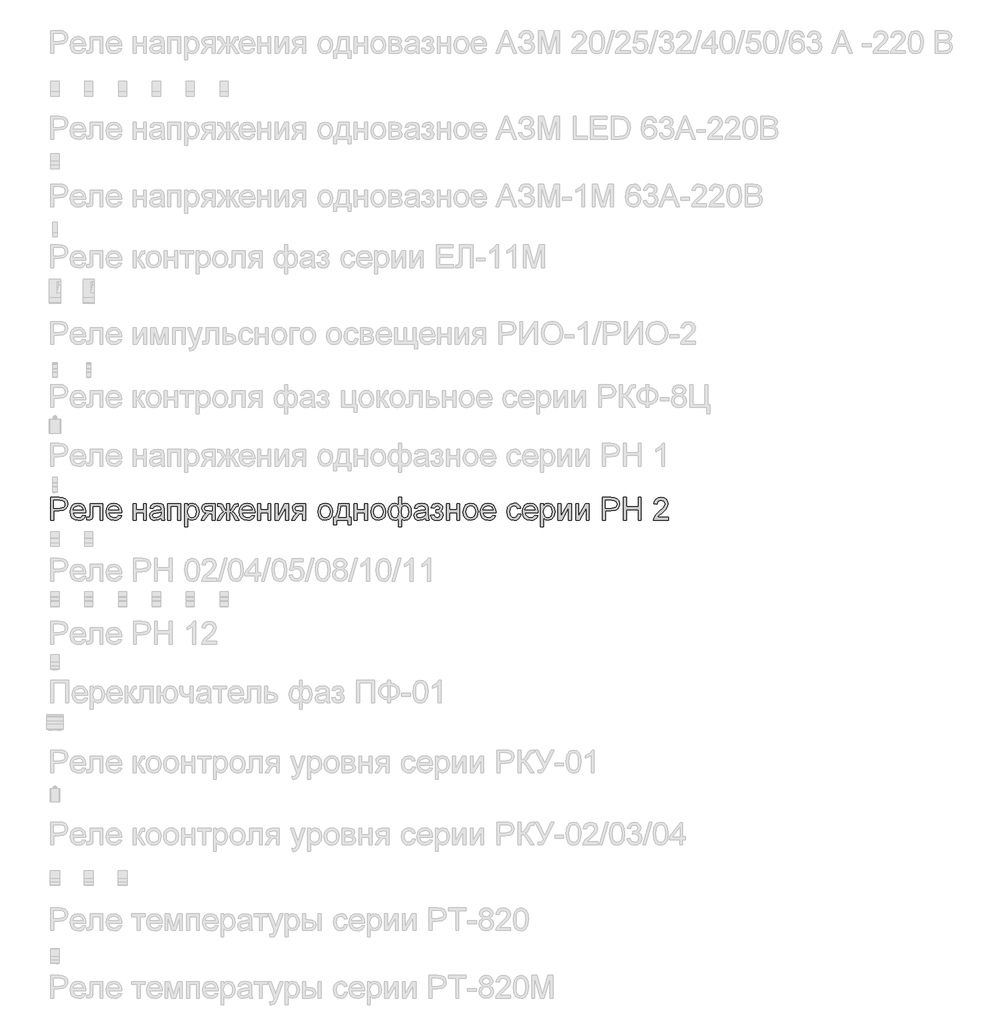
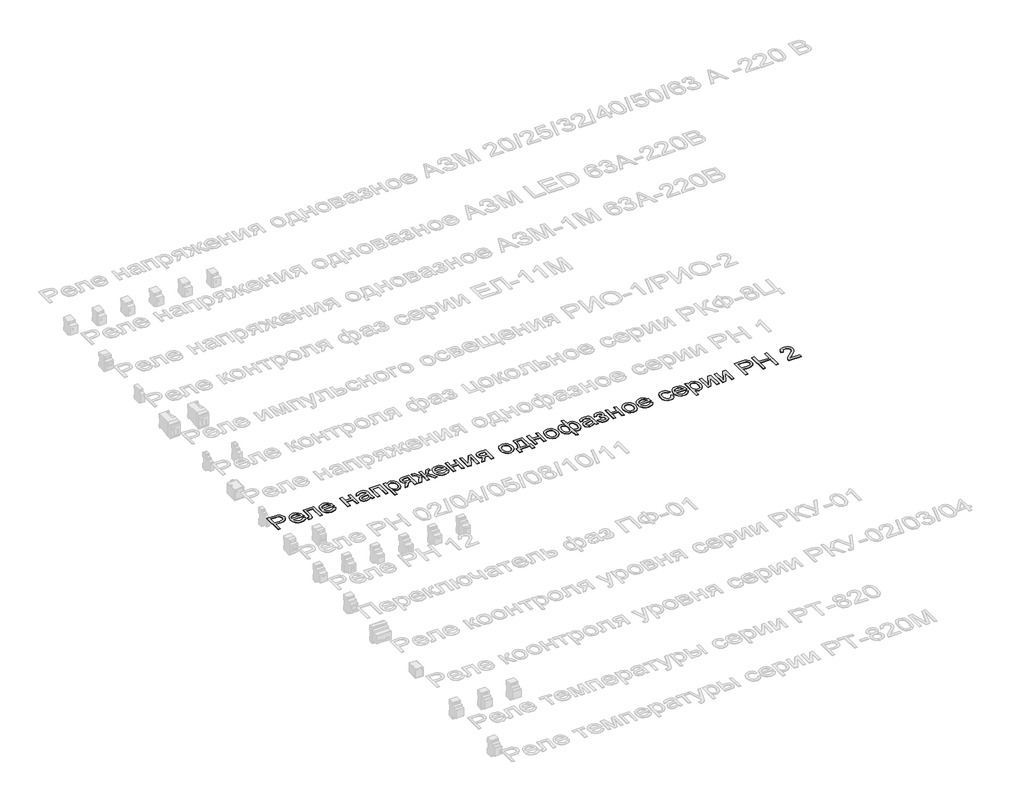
# One storey, part 11 of 34: 1 proxy.
"""IFC4 building model written with IfcOpenShell, lengths in millimetres."""

from ifc_helpers import new_model, si_unit, frame, origin, place, context, project, spatial, polyline, outline, extrude, element, save

model = new_model("IFC4")

# Units and contexts
model_context = context("Model", 3, world=origin())
ifc_project = project(units=[si_unit("LENGTHUNIT", "METRE", prefix="MILLI")], contexts=[model_context])

# Site, building, storey
site = spatial("IfcSite", under=ifc_project)
building = spatial("IfcBuilding", under=site)
storey = spatial("IfcBuildingStorey", under=building, Name="Этаж 01", Elevation=0.0)

# Proxy
placement = place(None, origin())
element("IfcBuildingElementProxy", 1, Name="Надпись на модели 1", ObjectType="Надпись на модели 1", at=placement, inside=storey, context=model_context, shape_type="SweptSolid", body=[
    extrude(outline(polyline([(-19039.0125911, 10206.235284), (-19039.0125911, 10306.6915941), (-19001.7829332, 10306.6915941), (-18986.7733478, 10305.735101), (-18974.5719283, 10301.0384742), (-18966.6624654, 10291.3263895), (-18963.6703585, 10277.6289165), (-18965.6906438, 10265.7892476), (-18971.7514996, 10255.9238788), (-18983.0853308, 10249.2652147), (-19000.9245418, 10247.04566), (-19026.4555523, 10247.04566), (-19026.4555523, 10206.235284), (-19039.0125911, 10206.235284)]), holes=[polyline([(-19026.4555523, 10259.6026988), (-19000.1887779, 10259.6026988), (-18981.6965762, 10264.2134864), (-18977.594692, 10269.7623732), (-18976.2273972, 10277.1874581), (-18979.4524961, 10287.5862559), (-18987.9260447, 10293.2761641), (-19000.4830834, 10294.1345554), (-19026.4555523, 10294.1345554), (-19026.4555523, 10259.6026988)])]), frame((0.0, 0.0, 40.0), z_axis=(0.0, 0.0, 1.0), x_axis=(1.0, 0.0, 0.0)), (0.0, 0.0, 1.0), 2.0),
    extrude(outline(polyline([(-18896.3234279, 10228.2101018), (-18884.0116438, 10226.640472), (-18888.4476875, 10217.3637143), (-18895.5263502, 10210.4291387), (-18905.0882164, 10206.1065253), (-18916.9738705, 10204.6656541), (-18931.7075445, 10207.1519233), (-18943.0444413, 10214.6107308), (-18950.2733225, 10226.5576985), (-18952.6829495, 10242.5084487), (-18950.248797, 10258.9956935), (-18942.9463394, 10271.3258717), (-18931.7627268, 10279.0146054), (-18917.6851091, 10281.5775166), (-18904.0458841, 10279.0207367), (-18893.14738, 10271.3503971), (-18886.0012722, 10259.0447444), (-18883.6192363, 10242.5820251), (-18883.6928127, 10239.1975108), (-18940.1259108, 10239.1975108), (-18937.9523413, 10229.7981258), (-18932.9031609, 10222.8880756), (-18925.6160317, 10218.6390386), (-18916.7286159, 10217.2226929), (-18904.4168318, 10219.8469178), (-18896.3234279, 10228.2101018)]), holes=[polyline([(-18940.1259108, 10251.7545495), (-18896.1762751, 10251.7545495), (-18901.2039957, 10263.1343659), (-18908.5248474, 10267.5489499), (-18917.73416, 10269.0204778), (-18933.1974665, 10264.323851), (-18938.0627059, 10258.8332123), (-18940.1259108, 10251.7545495)])]), frame((0.0, 0.0, 40.0), z_axis=(0.0, 0.0, 1.0), x_axis=(1.0, 0.0, 0.0)), (0.0, 0.0, 1.0), 2.0),
    extrude(outline(polyline([(-18864.7836782, 10280.0078868), (-18808.2770037, 10280.0078868), (-18808.2770037, 10206.3088604), (-18820.8340425, 10206.3088604), (-18820.8340425, 10267.450848), (-18852.2266394, 10267.450848), (-18852.2266394, 10232.2568038), (-18853.072768, 10216.0209451), (-18857.7203439, 10209.1660772), (-18868.7077528, 10206.235284), (-18878.9103468, 10206.8729461), (-18878.9103468, 10218.7923228), (-18873.294015, 10218.7923228), (-18867.6163695, 10219.564875), (-18865.3477639, 10222.0174216), (-18864.7836782, 10232.9680423), (-18864.7836782, 10280.0078868)])), frame((0.0, 0.0, 40.0), z_axis=(0.0, 0.0, 1.0), x_axis=(1.0, 0.0, 0.0)), (0.0, 0.0, 1.0), 2.0),
    extrude(outline(polyline([(-18737.7908134, 10228.2101018), (-18725.4790293, 10226.640472), (-18729.915073, 10217.3637143), (-18736.9937358, 10210.4291387), (-18746.555602, 10206.1065253), (-18758.4412561, 10204.6656541), (-18773.17493, 10207.1519233), (-18784.5118268, 10214.6107308), (-18791.740708, 10226.5576985), (-18794.1503351, 10242.5084487), (-18791.7161826, 10258.9956935), (-18784.4137249, 10271.3258717), (-18773.2301123, 10279.0146054), (-18759.1524946, 10281.5775166), (-18745.5132696, 10279.0207367), (-18734.6147655, 10271.3503971), (-18727.4686578, 10259.0447444), (-18725.0866219, 10242.5820251), (-18725.1601983, 10239.1975108), (-18781.5932963, 10239.1975108), (-18779.4197269, 10229.7981258), (-18774.3705465, 10222.8880756), (-18767.0834173, 10218.6390386), (-18758.1960014, 10217.2226929), (-18745.8842173, 10219.8469178), (-18737.7908134, 10228.2101018)]), holes=[polyline([(-18781.5932963, 10251.7545495), (-18737.6436606, 10251.7545495), (-18742.6713812, 10263.1343659), (-18749.9922329, 10267.5489499), (-18759.2015455, 10269.0204778), (-18774.6648521, 10264.323851), (-18779.5300915, 10258.8332123), (-18781.5932963, 10251.7545495)])]), frame((0.0, 0.0, 40.0), z_axis=(0.0, 0.0, 1.0), x_axis=(1.0, 0.0, 0.0)), (0.0, 0.0, 1.0), 2.0),
    extrude(outline(polyline([(-18673.2888369, 10280.0078868), (-18660.7317982, 10280.0078868), (-18660.7317982, 10251.7545495), (-18627.7695714, 10251.7545495), (-18627.7695714, 10280.0078868), (-18615.2125326, 10280.0078868), (-18615.2125326, 10206.235284), (-18627.7695714, 10206.235284), (-18627.7695714, 10239.1975108), (-18660.7317982, 10239.1975108), (-18660.7317982, 10206.235284), (-18673.2888369, 10206.235284), (-18673.2888369, 10280.0078868)])), frame((0.0, 0.0, 40.0), z_axis=(0.0, 0.0, 1.0), x_axis=(1.0, 0.0, 0.0)), (0.0, 0.0, 1.0), 2.0),
    extrude(outline(polyline([(-18549.2880791, 10215.6530631), (-18561.4649731, 10207.1427262), (-18574.9171914, 10204.6656541), (-18585.4110253, 10206.1555762), (-18593.1518757, 10210.6253425), (-18597.9251445, 10217.4127653), (-18599.5162342, 10225.8556571), (-18597.1127385, 10235.7884709), (-18590.7974309, 10242.998958), (-18582.0050512, 10247.1192364), (-18571.1402696, 10249.0076973), (-18549.3616555, 10253.3241794), (-18549.2880791, 10256.1200825), (-18552.7461699, 10265.3907088), (-18566.6275838, 10269.0204778), (-18579.3317754, 10266.6047194), (-18585.3895656, 10258.0330689), (-18597.9466043, 10259.6026988), (-18592.5142135, 10271.8654319), (-18581.5758555, 10279.0513936), (-18565.008903, 10281.5775166), (-18549.7908512, 10279.3456992), (-18541.1946752, 10273.7416301), (-18537.344177, 10265.2190306), (-18536.7310403, 10254.2316216), (-18536.7310403, 10238.6088996), (-18536.0933782, 10216.7934973), (-18533.5917806, 10206.235284), (-18546.1488194, 10206.235284), (-18549.2880791, 10215.6530631)]), holes=[polyline([(-18549.2880791, 10240.7671406), (-18569.5461143, 10236.9166424), (-18580.3495822, 10234.8810287), (-18585.2424128, 10231.5700907), (-18586.9591954, 10226.7385739), (-18583.2190618, 10219.9450197), (-18572.2439156, 10217.2226929), (-18559.539724, 10220.2270625), (-18551.3482183, 10227.4988633), (-18549.3616555, 10237.210948), (-18549.2880791, 10240.7671406)])]), frame((0.0, 0.0, 40.0), z_axis=(0.0, 0.0, 1.0), x_axis=(1.0, 0.0, 0.0)), (0.0, 0.0, 1.0), 2.0),
    extrude(outline(polyline([(-18519.465112, 10280.0078868), (-18462.9584376, 10280.0078868), (-18462.9584376, 10206.235284), (-18475.5154763, 10206.235284), (-18475.5154763, 10267.450848), (-18506.9080733, 10267.450848), (-18506.9080733, 10206.235284), (-18519.465112, 10206.235284), (-18519.465112, 10280.0078868)])), frame((0.0, 0.0, 40.0), z_axis=(0.0, 0.0, 1.0), x_axis=(1.0, 0.0, 0.0)), (0.0, 0.0, 1.0), 2.0),
    extrude(outline(polyline([(-18444.1228794, 10177.9819468), (-18444.1228794, 10280.0078868), (-18431.5658406, 10280.0078868), (-18431.5658406, 10267.6961027), (-18422.8838256, 10278.1071631), (-18411.1606526, 10281.5775166), (-18395.243625, 10276.7214743), (-18384.8448273, 10263.036264), (-18381.3376856, 10243.6856711), (-18385.2985484, 10223.3417968), (-18396.8009921, 10209.4849083), (-18412.6812316, 10204.6656541), (-18423.6073268, 10207.890753), (-18431.5658406, 10216.0454705), (-18431.5658406, 10177.9819468), (-18444.1228794, 10177.9819468)]), holes=[polyline([(-18431.5658406, 10242.5329742), (-18430.2077429, 10231.2757851), (-18426.1334498, 10223.4031104), (-18420.1216449, 10218.7677973), (-18412.9510117, 10217.2226929), (-18405.6638825, 10218.8229796), (-18399.4987934, 10223.6238396), (-18395.2957416, 10231.7846886), (-18393.8947243, 10243.4649419), (-18395.2620191, 10254.6608173), (-18399.3639033, 10262.6438566), (-18405.3665112, 10267.4263225), (-18412.4359769, 10269.0204778), (-18419.5330337, 10267.325155), (-18425.7655679, 10262.2391864), (-18430.1157724, 10253.9219876), (-18431.5658406, 10242.5329742)])]), frame((0.0, 0.0, 40.0), z_axis=(0.0, 0.0, 1.0), x_axis=(1.0, 0.0, 0.0)), (0.0, 0.0, 1.0), 2.0),
    extrude(outline(polyline([(-18310.7043425, 10280.0078868), (-18310.7043425, 10206.235284), (-18323.2613813, 10206.235284), (-18323.2613813, 10234.4886212), (-18330.1039864, 10234.4886212), (-18339.4236636, 10232.8944659), (-18348.1792551, 10222.1768371), (-18358.1856453, 10206.235284), (-18372.7047214, 10206.235284), (-18360.0986317, 10226.3952173), (-18349.4055284, 10236.843066), (-18357.9894416, 10239.4734223), (-18364.0227063, 10244.470486), (-18368.7806468, 10258.6952565), (-18367.1558347, 10267.2914325), (-18362.2813982, 10274.0972494), (-18354.3290158, 10278.5302274), (-18343.4703655, 10280.0078868), (-18310.7043425, 10280.0078868)]), holes=[polyline([(-18323.2613813, 10267.450848), (-18339.816071, 10267.450848), (-18353.2192384, 10264.5445802), (-18356.223608, 10257.7387633), (-18351.7967614, 10249.6330967), (-18336.1127256, 10247.04566), (-18323.2613813, 10247.04566), (-18323.2613813, 10267.450848)])]), frame((0.0, 0.0, 40.0), z_axis=(0.0, 0.0, 1.0), x_axis=(1.0, 0.0, 0.0)), (0.0, 0.0, 1.0), 2.0),
    extrude(outline(polyline([(-18246.3495188, 10280.0078868), (-18246.3495188, 10248.6152898), (-18239.0286671, 10251.2027265), (-18232.1002229, 10264.6304194), (-18223.8351407, 10277.5062892), (-18212.0874423, 10280.0078868), (-18207.1087727, 10280.0078868), (-18207.1087727, 10267.3772716), (-18210.5668634, 10267.450848), (-18217.0415865, 10266.1509983), (-18221.5297469, 10258.0085434), (-18226.7414085, 10249.0812737), (-18234.1848875, 10244.5440624), (-18225.9749876, 10239.6573633), (-18217.9735542, 10229.3627988), (-18203.969513, 10206.235284), (-18218.3659617, 10206.235284), (-18232.1492738, 10229.0439677), (-18239.1758199, 10238.5230604), (-18246.3495188, 10240.7671406), (-18246.3495188, 10206.235284), (-18258.9065576, 10206.235284), (-18258.9065576, 10240.7671406), (-18266.055731, 10238.5721114), (-18273.1313281, 10229.0930186), (-18286.9146401, 10206.235284), (-18301.2865634, 10206.235284), (-18287.3315731, 10229.3627988), (-18279.268826, 10239.6573633), (-18271.0221379, 10244.5440624), (-18278.9193381, 10249.5472576), (-18285.6883668, 10262.4231274), (-18288.9993048, 10266.6660331), (-18294.4194328, 10267.5244244), (-18298.1473037, 10267.450848), (-18298.1473037, 10280.0078868), (-18296.2588428, 10280.0078868), (-18285.2469084, 10279.2230718), (-18279.5324748, 10275.8876084), (-18273.1313281, 10264.6304194), (-18266.2764602, 10251.2885657), (-18258.9065576, 10248.6152898), (-18258.9065576, 10280.0078868), (-18246.3495188, 10280.0078868)])), frame((0.0, 0.0, 40.0), z_axis=(0.0, 0.0, 1.0), x_axis=(1.0, 0.0, 0.0)), (0.0, 0.0, 1.0), 2.0),
    extrude(outline(polyline([(-18146.0403615, 10228.2101018), (-18133.7285773, 10226.640472), (-18138.1646211, 10217.3637143), (-18145.2432838, 10210.4291387), (-18154.80515, 10206.1065253), (-18166.6908041, 10204.6656541), (-18181.424478, 10207.1519233), (-18192.7613748, 10214.6107308), (-18199.990256, 10226.5576985), (-18202.3998831, 10242.5084487), (-18199.9657306, 10258.9956935), (-18192.663273, 10271.3258717), (-18181.4796603, 10279.0146054), (-18167.4020426, 10281.5775166), (-18153.7628177, 10279.0207367), (-18142.8643136, 10271.3503971), (-18135.7182058, 10259.0447444), (-18133.3361699, 10242.5820251), (-18133.4097463, 10239.1975108), (-18189.8428443, 10239.1975108), (-18187.6692749, 10229.7981258), (-18182.6200945, 10222.8880756), (-18175.3329653, 10218.6390386), (-18166.4455495, 10217.2226929), (-18154.1337653, 10219.8469178), (-18146.0403615, 10228.2101018)]), holes=[polyline([(-18189.8428443, 10251.7545495), (-18145.8932087, 10251.7545495), (-18150.9209293, 10263.1343659), (-18158.241781, 10267.5489499), (-18167.4510936, 10269.0204778), (-18182.9144001, 10264.323851), (-18187.7796395, 10258.8332123), (-18189.8428443, 10251.7545495)])]), frame((0.0, 0.0, 40.0), z_axis=(0.0, 0.0, 1.0), x_axis=(1.0, 0.0, 0.0)), (0.0, 0.0, 1.0), 2.0),
    extrude(outline(polyline([(-18120.7791311, 10280.0078868), (-18108.2220923, 10280.0078868), (-18108.2220923, 10251.7545495), (-18075.2598656, 10251.7545495), (-18075.2598656, 10280.0078868), (-18062.7028268, 10280.0078868), (-18062.7028268, 10206.235284), (-18075.2598656, 10206.235284), (-18075.2598656, 10239.1975108), (-18108.2220923, 10239.1975108), (-18108.2220923, 10206.235284), (-18120.7791311, 10206.235284), (-18120.7791311, 10280.0078868)])), frame((0.0, 0.0, 40.0), z_axis=(0.0, 0.0, 1.0), x_axis=(1.0, 0.0, 0.0)), (0.0, 0.0, 1.0), 2.0),
    extrude(outline(polyline([(-18043.8672687, 10280.0078868), (-18031.3102299, 10280.0078868), (-18031.3102299, 10223.746467), (-18000.4571932, 10280.0078868), (-17984.2213345, 10280.0078868), (-17984.2213345, 10206.235284), (-17996.7783733, 10206.235284), (-17996.7783733, 10262.1533473), (-18027.4352062, 10206.235284), (-18043.8672687, 10206.235284), (-18043.8672687, 10280.0078868)])), frame((0.0, 0.0, 40.0), z_axis=(0.0, 0.0, 1.0), x_axis=(1.0, 0.0, 0.0)), (0.0, 0.0, 1.0), 2.0),
    extrude(outline(polyline([(-17908.8791019, 10280.0078868), (-17908.8791019, 10206.235284), (-17921.4361407, 10206.235284), (-17921.4361407, 10234.4886212), (-17928.2787458, 10234.4886212), (-17937.598423, 10232.8944659), (-17946.3540145, 10222.1768371), (-17956.3604047, 10206.235284), (-17970.8794808, 10206.235284), (-17958.2733911, 10226.3952173), (-17947.5802878, 10236.843066), (-17956.164201, 10239.4734223), (-17962.1974657, 10244.470486), (-17966.9554062, 10258.6952565), (-17965.3305941, 10267.2914325), (-17960.4561576, 10274.0972494), (-17952.5037752, 10278.5302274), (-17941.6451249, 10280.0078868), (-17908.8791019, 10280.0078868)]), holes=[polyline([(-17921.4361407, 10267.450848), (-17937.9908304, 10267.450848), (-17951.3939978, 10264.5445802), (-17954.3983674, 10257.7387633), (-17949.9715208, 10249.6330967), (-17934.287485, 10247.04566), (-17921.4361407, 10247.04566), (-17921.4361407, 10267.450848)])]), frame((0.0, 0.0, 40.0), z_axis=(0.0, 0.0, 1.0), x_axis=(1.0, 0.0, 0.0)), (0.0, 0.0, 1.0), 2.0),
    extrude(outline(polyline([(-17853.9420573, 10243.1215854), (-17851.2258619, 10260.9086798), (-17843.0772757, 10273.4105363), (-17833.0095718, 10279.5357715), (-17820.955305, 10281.5775166), (-17807.7636698, 10279.0912475), (-17797.2269164, 10271.63244), (-17790.3199319, 10259.7897054), (-17788.0176037, 10244.151655), (-17792.0888312, 10221.8089551), (-17803.9468941, 10209.1660772), (-17820.955305, 10204.6656541), (-17834.3063558, 10207.1427262), (-17844.8308465, 10214.5739426), (-17851.6642546, 10226.6649975), (-17853.9420573, 10243.1215854)]), holes=[polyline([(-17841.3850185, 10243.1461108), (-17839.9318846, 10231.7816229), (-17835.572483, 10223.6851533), (-17829.0119207, 10218.838308), (-17820.955305, 10217.2226929), (-17812.9354776, 10218.8475051), (-17806.387178, 10223.7219415), (-17802.0277764, 10231.92571), (-17800.5746425, 10243.5385183), (-17802.0369734, 10254.5719125), (-17806.4239662, 10262.5580175), (-17812.9814628, 10267.4048627), (-17820.955305, 10269.0204778), (-17829.0119207, 10267.4109941), (-17835.572483, 10262.5825429), (-17839.9318846, 10254.5044674), (-17841.3850185, 10243.1461108)])]), frame((0.0, 0.0, 40.0), z_axis=(0.0, 0.0, 1.0), x_axis=(1.0, 0.0, 0.0)), (0.0, 0.0, 1.0), 2.0),
    extrude(outline(polyline([(-17762.9035262, 10280.0078868), (-17715.8146308, 10280.0078868), (-17715.8146308, 10218.7923228), (-17706.3968517, 10218.7923228), (-17706.3968517, 10185.830096), (-17718.9538905, 10185.830096), (-17718.9538905, 10206.235284), (-17770.7516754, 10206.235284), (-17770.7516754, 10185.830096), (-17783.3087142, 10185.830096), (-17783.3087142, 10218.7923228), (-17775.460565, 10218.7923228), (-17765.760743, 10242.7414406), (-17762.9035262, 10280.0078868)]), holes=[polyline([(-17751.9161173, 10267.450848), (-17754.8591732, 10238.8418915), (-17761.3338964, 10218.7923228), (-17728.3716696, 10218.7923228), (-17728.3716696, 10267.450848), (-17751.9161173, 10267.450848)])]), frame((0.0, 0.0, 40.0), z_axis=(0.0, 0.0, 1.0), x_axis=(1.0, 0.0, 0.0)), (0.0, 0.0, 1.0), 2.0),
    extrude(outline(polyline([(-17692.2701831, 10280.0078868), (-17679.7131444, 10280.0078868), (-17679.7131444, 10251.7545495), (-17646.7509176, 10251.7545495), (-17646.7509176, 10280.0078868), (-17634.1938788, 10280.0078868), (-17634.1938788, 10206.235284), (-17646.7509176, 10206.235284), (-17646.7509176, 10239.1975108), (-17679.7131444, 10239.1975108), (-17679.7131444, 10206.235284), (-17692.2701831, 10206.235284), (-17692.2701831, 10280.0078868)])), frame((0.0, 0.0, 40.0), z_axis=(0.0, 0.0, 1.0), x_axis=(1.0, 0.0, 0.0)), (0.0, 0.0, 1.0), 2.0),
    extrude(outline(polyline([(-17618.4975804, 10243.1215854), (-17615.781385, 10260.9086798), (-17607.6327988, 10273.4105363), (-17597.5650948, 10279.5357715), (-17585.5108281, 10281.5775166), (-17572.3191929, 10279.0912475), (-17561.7824394, 10271.63244), (-17554.875455, 10259.7897054), (-17552.5731268, 10244.151655), (-17556.6443542, 10221.8089551), (-17568.5024172, 10209.1660772), (-17585.5108281, 10204.6656541), (-17598.8618789, 10207.1427262), (-17609.3863696, 10214.5739426), (-17616.2197777, 10226.6649975), (-17618.4975804, 10243.1215854)]), holes=[polyline([(-17605.9405416, 10243.1461108), (-17604.4874077, 10231.7816229), (-17600.1280061, 10223.6851533), (-17593.5674438, 10218.838308), (-17585.5108281, 10217.2226929), (-17577.4910006, 10218.8475051), (-17570.9427011, 10223.7219415), (-17566.5832995, 10231.92571), (-17565.1301656, 10243.5385183), (-17566.5924965, 10254.5719125), (-17570.9794893, 10262.5580175), (-17577.5369859, 10267.4048627), (-17585.5108281, 10269.0204778), (-17593.5674438, 10267.4109941), (-17600.1280061, 10262.5825429), (-17604.4874077, 10254.5044674), (-17605.9405416, 10243.1461108)])]), frame((0.0, 0.0, 40.0), z_axis=(0.0, 0.0, 1.0), x_axis=(1.0, 0.0, 0.0)), (0.0, 0.0, 1.0), 2.0),
    extrude(outline(polyline([(-17496.0664524, 10306.6915941), (-17483.5094136, 10306.6915941), (-17483.5094136, 10272.920027), (-17475.5263743, 10279.4315383), (-17466.1699089, 10281.5775166), (-17455.1794343, 10278.8490585), (-17446.7334768, 10270.6636841), (-17441.3532026, 10258.3396372), (-17439.5597779, 10243.1951618), (-17441.4911584, 10227.5877681), (-17447.2852998, 10215.2974438), (-17455.9489208, 10207.3236016), (-17466.48874, 10204.6656541), (-17474.1652109, 10205.8919275), (-17483.5094136, 10212.5873798), (-17483.5094136, 10177.9819468), (-17496.0664524, 10177.9819468), (-17496.0664524, 10212.5873798), (-17504.0862799, 10206.6522169), (-17513.5776353, 10204.6656541), (-17524.0990604, 10207.2040399), (-17533.1980084, 10214.8191972), (-17539.4887905, 10227.1616382), (-17541.5857179, 10243.8818748), (-17539.68806, 10258.603286), (-17533.9950861, 10270.7372605), (-17525.0954075, 10278.8674526), (-17513.5776353, 10281.5775166), (-17503.8532879, 10279.4315383), (-17496.0664524, 10272.920027), (-17496.0664524, 10306.6915941)]), holes=[polyline([(-17483.58299, 10242.9008562), (-17479.401398, 10222.45888), (-17468.9167611, 10217.2226929), (-17462.4634978, 10218.8321766), (-17457.0341727, 10223.6606278), (-17453.3461557, 10231.8797247), (-17452.1168167, 10243.6611456), (-17456.654028, 10262.7419585), (-17461.8350327, 10267.450848), (-17468.3036245, 10269.0204778), (-17474.9653543, 10267.3864686), (-17479.7447545, 10262.4844411), (-17483.58299, 10242.9008562)]), polyline([(-17529.0286791, 10244.151655), (-17527.771749, 10231.8337395), (-17524.0009585, 10223.5257378), (-17518.3662326, 10218.7984541), (-17511.5174962, 10217.2226929), (-17504.7024822, 10218.7892571), (-17499.8556369, 10223.4889496), (-17495.992876, 10242.2877195), (-17500.0518407, 10262.3372883), (-17505.1439406, 10267.3496804), (-17512.3023111, 10269.0204778), (-17519.0222889, 10267.3895343), (-17524.3688405, 10262.4967038), (-17529.0286791, 10244.151655)])]), frame((0.0, 0.0, 40.0), z_axis=(0.0, 0.0, 1.0), x_axis=(1.0, 0.0, 0.0)), (0.0, 0.0, 1.0), 2.0),
    extrude(outline(polyline([(-17376.7745841, 10215.6530631), (-17388.9514781, 10207.1427262), (-17402.4036964, 10204.6656541), (-17412.8975303, 10206.1555762), (-17420.6383806, 10210.6253425), (-17425.4116495, 10217.4127653), (-17427.0027391, 10225.8556571), (-17424.5992434, 10235.7884709), (-17418.2839359, 10242.998958), (-17409.4915562, 10247.1192364), (-17398.6267746, 10249.0076973), (-17376.8481605, 10253.3241794), (-17376.7745841, 10256.1200825), (-17380.2326748, 10265.3907088), (-17394.1140888, 10269.0204778), (-17406.8182803, 10266.6047194), (-17412.8760705, 10258.0330689), (-17425.4331093, 10259.6026988), (-17420.0007185, 10271.8654319), (-17409.0623605, 10279.0513936), (-17392.495408, 10281.5775166), (-17377.2773561, 10279.3456992), (-17368.6811802, 10273.7416301), (-17364.830682, 10265.2190306), (-17364.2175453, 10254.2316216), (-17364.2175453, 10238.6088996), (-17363.5798832, 10216.7934973), (-17361.0782856, 10206.235284), (-17373.6353244, 10206.235284), (-17376.7745841, 10215.6530631)]), holes=[polyline([(-17376.7745841, 10240.7671406), (-17397.0326193, 10236.9166424), (-17407.8360872, 10234.8810287), (-17412.7289177, 10231.5700907), (-17414.4457004, 10226.7385739), (-17410.7055668, 10219.9450197), (-17399.7304206, 10217.2226929), (-17387.026229, 10220.2270625), (-17378.8347232, 10227.4988633), (-17376.8481605, 10237.210948), (-17376.7745841, 10240.7671406)])]), frame((0.0, 0.0, 40.0), z_axis=(0.0, 0.0, 1.0), x_axis=(1.0, 0.0, 0.0)), (0.0, 0.0, 1.0), 2.0),
    extrude(outline(polyline([(-17329.6856887, 10239.1975108), (-17329.6856887, 10251.7545495), (-17319.7774003, 10252.2450589), (-17314.7742052, 10254.857021), (-17312.4197604, 10260.3139373), (-17315.5712828, 10266.6537703), (-17323.7014749, 10269.0204778), (-17332.1014471, 10266.6660331), (-17337.5338379, 10259.6026988), (-17351.6605065, 10261.1723286), (-17342.218202, 10276.4762196), (-17324.9767991, 10281.5775166), (-17314.4798996, 10280.0232152), (-17306.5336485, 10275.3603109), (-17301.5304533, 10268.5391656), (-17299.8627216, 10260.510141), (-17302.2355605, 10252.7110427), (-17309.3540771, 10246.677778), (-17301.0522067, 10238.8541542), (-17298.2930918, 10227.5969652), (-17300.0435969, 10218.3539301), (-17305.2951124, 10211.0300127), (-17313.6920189, 10206.2567438), (-17324.8786973, 10204.6656541), (-17335.820121, 10206.1371821), (-17344.192502, 10210.5517661), (-17349.9958405, 10217.909406), (-17353.2301364, 10228.2101018), (-17339.1034678, 10229.7797317), (-17333.438085, 10220.5091054), (-17323.6769494, 10217.2226929), (-17314.504425, 10220.3742153), (-17310.8501305, 10228.430831), (-17313.1187362, 10235.0281815), (-17317.950253, 10238.5598486), (-17327.2331421, 10239.2710872), (-17329.6856887, 10239.1975108)])), frame((0.0, 0.0, 40.0), z_axis=(0.0, 0.0, 1.0), x_axis=(1.0, 0.0, 0.0)), (0.0, 0.0, 1.0), 2.0),
    extrude(outline(polyline([(-17282.5967933, 10280.0078868), (-17270.0397545, 10280.0078868), (-17270.0397545, 10251.7545495), (-17237.0775278, 10251.7545495), (-17237.0775278, 10280.0078868), (-17224.520489, 10280.0078868), (-17224.520489, 10206.235284), (-17237.0775278, 10206.235284), (-17237.0775278, 10239.1975108), (-17270.0397545, 10239.1975108), (-17270.0397545, 10206.235284), (-17282.5967933, 10206.235284), (-17282.5967933, 10280.0078868)])), frame((0.0, 0.0, 40.0), z_axis=(0.0, 0.0, 1.0), x_axis=(1.0, 0.0, 0.0)), (0.0, 0.0, 1.0), 2.0),
    extrude(outline(polyline([(-17208.8241905, 10243.1215854), (-17206.1079951, 10260.9086798), (-17197.9594089, 10273.4105363), (-17187.891705, 10279.5357715), (-17175.8374383, 10281.5775166), (-17162.6458031, 10279.0912475), (-17152.1090496, 10271.63244), (-17145.2020652, 10259.7897054), (-17142.899737, 10244.151655), (-17146.9709644, 10221.8089551), (-17158.8290274, 10209.1660772), (-17175.8374383, 10204.6656541), (-17189.188489, 10207.1427262), (-17199.7129798, 10214.5739426), (-17206.5463879, 10226.6649975), (-17208.8241905, 10243.1215854)]), holes=[polyline([(-17196.2671518, 10243.1461108), (-17194.8140179, 10231.7816229), (-17190.4546162, 10223.6851533), (-17183.894054, 10218.838308), (-17175.8374383, 10217.2226929), (-17167.8176108, 10218.8475051), (-17161.2693113, 10223.7219415), (-17156.9099097, 10231.92571), (-17155.4567758, 10243.5385183), (-17156.9191067, 10254.5719125), (-17161.3060995, 10262.5580175), (-17167.8635961, 10267.4048627), (-17175.8374383, 10269.0204778), (-17183.894054, 10267.4109941), (-17190.4546162, 10262.5825429), (-17194.8140179, 10254.5044674), (-17196.2671518, 10243.1461108)])]), frame((0.0, 0.0, 40.0), z_axis=(0.0, 0.0, 1.0), x_axis=(1.0, 0.0, 0.0)), (0.0, 0.0, 1.0), 2.0),
    extrude(outline(polyline([(-17077.1224363, 10228.2101018), (-17064.8106522, 10226.640472), (-17069.2466959, 10217.3637143), (-17076.3253586, 10210.4291387), (-17085.8872248, 10206.1065253), (-17097.7728789, 10204.6656541), (-17112.5065528, 10207.1519233), (-17123.8434497, 10214.6107308), (-17131.0723309, 10226.5576985), (-17133.4819579, 10242.5084487), (-17131.0478054, 10258.9956935), (-17123.7453478, 10271.3258717), (-17112.5617351, 10279.0146054), (-17098.4841175, 10281.5775166), (-17084.8448925, 10279.0207367), (-17073.9463884, 10271.3503971), (-17066.8002806, 10259.0447444), (-17064.4182447, 10242.5820251), (-17064.4918211, 10239.1975108), (-17120.9249192, 10239.1975108), (-17118.7513497, 10229.7981258), (-17113.7021693, 10222.8880756), (-17106.4150401, 10218.6390386), (-17097.5276243, 10217.2226929), (-17085.2158402, 10219.8469178), (-17077.1224363, 10228.2101018)]), holes=[polyline([(-17120.9249192, 10251.7545495), (-17076.9752835, 10251.7545495), (-17082.0030041, 10263.1343659), (-17089.3238558, 10267.5489499), (-17098.5331684, 10269.0204778), (-17113.9964749, 10264.323851), (-17118.8617143, 10258.8332123), (-17120.9249192, 10251.7545495)])]), frame((0.0, 0.0, 40.0), z_axis=(0.0, 0.0, 1.0), x_axis=(1.0, 0.0, 0.0)), (0.0, 0.0, 1.0), 2.0),
    extrude(outline(polyline([(-16965.5315644, 10232.9189914), (-16952.9745256, 10231.3493615), (-16956.4755359, 10220.1810773), (-16963.0544923, 10211.7412512), (-16972.0921266, 10206.4345534), (-16982.969171, 10204.6656541), (-16996.3263531, 10207.1335292), (-17006.7711361, 10214.5371544), (-17013.5125736, 10226.5515672), (-17015.7597195, 10242.8518052), (-17011.921484, 10263.7107144), (-17000.2228365, 10277.1138817), (-16983.1408492, 10281.5775166), (-16972.5305194, 10280.044675), (-16964.0477737, 10275.44615), (-16957.9623923, 10268.0271964), (-16954.5441555, 10258.0330689), (-16967.1011942, 10256.4634391), (-16972.9259925, 10265.8689554), (-16983.0427474, 10269.0204778), (-16991.157611, 10267.4692421), (-16997.5986116, 10262.8155349), (-17001.8016634, 10254.8079701), (-17003.2026807, 10243.1951618), (-17001.8323203, 10231.4260036), (-16997.721239, 10223.3908477), (-16991.3967343, 10218.7647316), (-16983.3861039, 10217.2226929), (-16971.5525664, 10221.0731911), (-16965.5315644, 10232.9189914)])), frame((0.0, 0.0, 40.0), z_axis=(0.0, 0.0, 1.0), x_axis=(1.0, 0.0, 0.0)), (0.0, 0.0, 1.0), 2.0),
    extrude(outline(polyline([(-16890.3364846, 10228.2101018), (-16878.0247005, 10226.640472), (-16882.4607442, 10217.3637143), (-16889.5394069, 10210.4291387), (-16899.1012731, 10206.1065253), (-16910.9869272, 10204.6656541), (-16925.7206012, 10207.1519233), (-16937.057498, 10214.6107308), (-16944.2863792, 10226.5576985), (-16946.6960062, 10242.5084487), (-16944.2618537, 10258.9956935), (-16936.9593961, 10271.3258717), (-16925.7757835, 10279.0146054), (-16911.6981658, 10281.5775166), (-16898.0589408, 10279.0207367), (-16887.1604367, 10271.3503971), (-16880.0143289, 10259.0447444), (-16877.632293, 10242.5820251), (-16877.7058694, 10239.1975108), (-16934.1389675, 10239.1975108), (-16931.965398, 10229.7981258), (-16926.9162176, 10222.8880756), (-16919.6290884, 10218.6390386), (-16910.7416726, 10217.2226929), (-16898.4298885, 10219.8469178), (-16890.3364846, 10228.2101018)]), holes=[polyline([(-16934.1389675, 10251.7545495), (-16890.1893318, 10251.7545495), (-16895.2170524, 10263.1343659), (-16902.5379041, 10267.5489499), (-16911.7472167, 10269.0204778), (-16927.2105232, 10264.323851), (-16932.0757626, 10258.8332123), (-16934.1389675, 10251.7545495)])]), frame((0.0, 0.0, 40.0), z_axis=(0.0, 0.0, 1.0), x_axis=(1.0, 0.0, 0.0)), (0.0, 0.0, 1.0), 2.0),
    extrude(outline(polyline([(-16865.0752542, 10177.9819468), (-16865.0752542, 10280.0078868), (-16852.5182155, 10280.0078868), (-16852.5182155, 10267.6961027), (-16843.8362004, 10278.1071631), (-16832.1130275, 10281.5775166), (-16816.1959998, 10276.7214743), (-16805.7972021, 10263.036264), (-16802.2900604, 10243.6856711), (-16806.2509232, 10223.3417968), (-16817.7533669, 10209.4849083), (-16833.6336064, 10204.6656541), (-16844.5597016, 10207.890753), (-16852.5182155, 10216.0454705), (-16852.5182155, 10177.9819468), (-16865.0752542, 10177.9819468)]), holes=[polyline([(-16852.5182155, 10242.5329742), (-16851.1601178, 10231.2757851), (-16847.0858247, 10223.4031104), (-16841.0740197, 10218.7677973), (-16833.9033865, 10217.2226929), (-16826.6162573, 10218.8229796), (-16820.4511682, 10223.6238396), (-16816.2481164, 10231.7846886), (-16814.8470992, 10243.4649419), (-16816.2143939, 10254.6608173), (-16820.3162782, 10262.6438566), (-16826.3188861, 10267.4263225), (-16833.3883517, 10269.0204778), (-16840.4854086, 10267.325155), (-16846.7179427, 10262.2391864), (-16851.0681473, 10253.9219876), (-16852.5182155, 10242.5329742)])]), frame((0.0, 0.0, 40.0), z_axis=(0.0, 0.0, 1.0), x_axis=(1.0, 0.0, 0.0)), (0.0, 0.0, 1.0), 2.0),
    extrude(outline(polyline([(-16788.1633918, 10280.0078868), (-16775.606353, 10280.0078868), (-16775.606353, 10223.746467), (-16744.7533164, 10280.0078868), (-16728.5174576, 10280.0078868), (-16728.5174576, 10206.235284), (-16741.0744964, 10206.235284), (-16741.0744964, 10262.1533473), (-16771.7313293, 10206.235284), (-16788.1633918, 10206.235284), (-16788.1633918, 10280.0078868)])), frame((0.0, 0.0, 40.0), z_axis=(0.0, 0.0, 1.0), x_axis=(1.0, 0.0, 0.0)), (0.0, 0.0, 1.0), 2.0),
    extrude(outline(polyline([(-16709.6818995, 10280.0078868), (-16697.1248607, 10280.0078868), (-16697.1248607, 10223.746467), (-16666.2718241, 10280.0078868), (-16650.0359653, 10280.0078868), (-16650.0359653, 10206.235284), (-16662.5930041, 10206.235284), (-16662.5930041, 10262.1533473), (-16693.249837, 10206.235284), (-16709.6818995, 10206.235284), (-16709.6818995, 10280.0078868)])), frame((0.0, 0.0, 40.0), z_axis=(0.0, 0.0, 1.0), x_axis=(1.0, 0.0, 0.0)), (0.0, 0.0, 1.0), 2.0),
    extrude(outline(polyline([(-16590.3900312, 10206.235284), (-16590.3900312, 10306.6915941), (-16553.1603733, 10306.6915941), (-16538.1507879, 10305.735101), (-16525.9493684, 10301.0384742), (-16518.0399055, 10291.3263895), (-16515.0477986, 10277.6289165), (-16517.0680839, 10265.7892476), (-16523.1289397, 10255.9238788), (-16534.4627709, 10249.2652147), (-16552.3019819, 10247.04566), (-16577.8329924, 10247.04566), (-16577.8329924, 10206.235284), (-16590.3900312, 10206.235284)]), holes=[polyline([(-16577.8329924, 10259.6026988), (-16551.566218, 10259.6026988), (-16533.0740163, 10264.2134864), (-16528.9721321, 10269.7623732), (-16527.6048373, 10277.1874581), (-16530.8299362, 10287.5862559), (-16539.3034848, 10293.2761641), (-16551.8605236, 10294.1345554), (-16577.8329924, 10294.1345554), (-16577.8329924, 10259.6026988)])]), frame((0.0, 0.0, 40.0), z_axis=(0.0, 0.0, 1.0), x_axis=(1.0, 0.0, 0.0)), (0.0, 0.0, 1.0), 2.0),
    extrude(outline(polyline([(-16497.7818703, 10206.235284), (-16497.7818703, 10306.6915941), (-16485.2248315, 10306.6915941), (-16485.2248315, 10265.8812181), (-16431.8574167, 10265.8812181), (-16431.8574167, 10306.6915941), (-16419.300378, 10306.6915941), (-16419.300378, 10206.235284), (-16431.8574167, 10206.235284), (-16431.8574167, 10253.3241794), (-16485.2248315, 10253.3241794), (-16485.2248315, 10206.235284), (-16497.7818703, 10206.235284)])), frame((0.0, 0.0, 40.0), z_axis=(0.0, 0.0, 1.0), x_axis=(1.0, 0.0, 0.0)), (0.0, 0.0, 1.0), 2.0),
    extrude(outline(polyline([(-16298.4388798, 10218.7923228), (-16298.4388798, 10206.235284), (-16364.3633333, 10206.235284), (-16363.0144327, 10214.8927736), (-16355.3870127, 10228.2223646), (-16339.6661887, 10242.7782288), (-16317.9856765, 10263.6984516), (-16312.5655484, 10277.9232221), (-16317.6791082, 10289.4379286), (-16331.0332246, 10294.1345554), (-16344.9514267, 10289.5482932), (-16350.2366647, 10276.8686271), (-16362.7937035, 10278.4382569), (-16359.74948, 10290.5844941), (-16353.167458, 10299.4565816), (-16343.3909939, 10304.882841), (-16330.7634445, 10306.6915941), (-16318.0439245, 10304.6805059), (-16308.2858545, 10298.6472412), (-16302.0778459, 10289.6341323), (-16300.0085097, 10278.6835116), (-16302.2403271, 10266.7763977), (-16309.6592807, 10254.4646136), (-16327.6487102, 10237.2599989), (-16342.0942099, 10225.1812067), (-16347.7595926, 10218.7923228), (-16298.4388798, 10218.7923228)])), frame((0.0, 0.0, 40.0), z_axis=(0.0, 0.0, 1.0), x_axis=(1.0, 0.0, 0.0)), (0.0, 0.0, 1.0), 2.0),
])

save(model, "model.ifc")
